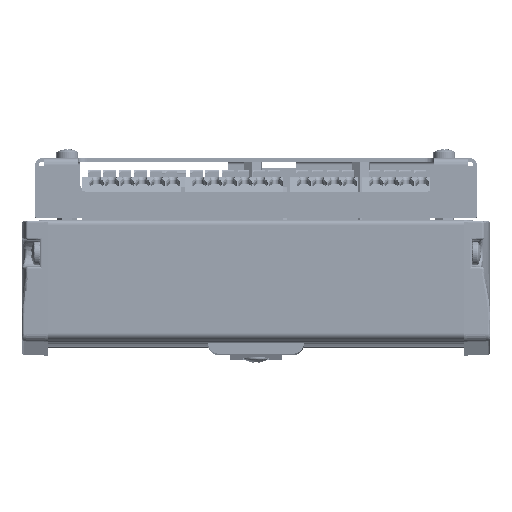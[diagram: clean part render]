
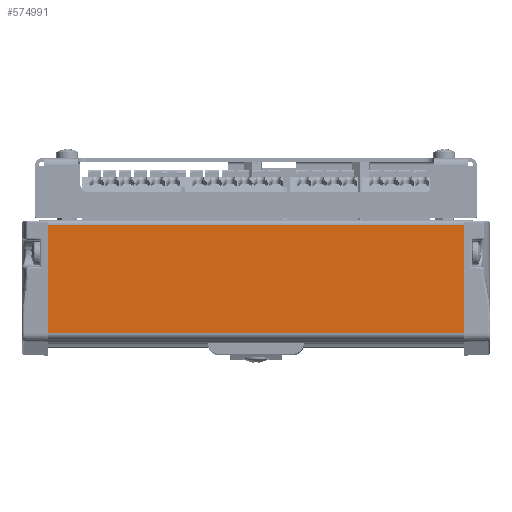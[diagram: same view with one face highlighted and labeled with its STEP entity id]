
A CAD part, front view. The second image highlights one B-rep face of the part: STEP entity #574991.
In plain terms, the highlighted planar face has unit normal (0, -1, 0).
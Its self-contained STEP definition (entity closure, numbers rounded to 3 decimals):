
#44242 = DIRECTION ( 'NONE',  ( 0., 0., -1. ) ) ;
#51611 = EDGE_CURVE ( 'NONE', #251498, #208137, #583958, .T. ) ;
#90198 = CARTESIAN_POINT ( 'NONE',  ( -11.031, -52.5, -126.25 ) ) ;
#105812 = LINE ( 'NONE', #488262, #290980 ) ;
#124954 = CARTESIAN_POINT ( 'NONE',  ( -11.031, -52.5, -31.25 ) ) ;
#164613 = CARTESIAN_POINT ( 'NONE',  ( 13.675, -52.5, -126.25 ) ) ;
#179936 = ORIENTED_EDGE ( 'NONE', *, *, #51611, .T. ) ;
#180347 = ORIENTED_EDGE ( 'NONE', *, *, #441403, .T. ) ;
#208137 = VERTEX_POINT ( 'NONE', #558364 ) ;
#212771 = CARTESIAN_POINT ( 'NONE',  ( 13.675, -52.5, -126.25 ) ) ;
#215731 = FACE_OUTER_BOUND ( 'NONE', #601110, .T. ) ;
#251498 = VERTEX_POINT ( 'NONE', #293589 ) ;
#290980 = VECTOR ( 'NONE', #292647, 1000. ) ;
#292647 = DIRECTION ( 'NONE',  ( -1., 0., 0. ) ) ;
#293589 = CARTESIAN_POINT ( 'NONE',  ( -11.031, -52.5, -126.25 ) ) ;
#339943 = VECTOR ( 'NONE', #44242, 1000. ) ;
#341281 = VERTEX_POINT ( 'NONE', #124954 ) ;
#353945 = VECTOR ( 'NONE', #392866, 1000. ) ;
#356738 = DIRECTION ( 'NONE',  ( 0., 0., -1. ) ) ;
#371057 = VECTOR ( 'NONE', #437239, 1000. ) ;
#374550 = EDGE_CURVE ( 'NONE', #580088, #341281, #105812, .T. ) ;
#390577 = PLANE ( 'NONE',  #421822 ) ;
#392866 = DIRECTION ( 'NONE',  ( 0., 0., 1. ) ) ;
#399646 = DIRECTION ( 'NONE',  ( 0., -1., 0. ) ) ;
#413315 = EDGE_CURVE ( 'NONE', #208137, #580088, #438788, .T. ) ;
#421822 = AXIS2_PLACEMENT_3D ( 'NONE', #212771, #399646, #356738 ) ;
#437239 = DIRECTION ( 'NONE',  ( 1., 0., 0. ) ) ;
#438788 = LINE ( 'NONE', #484681, #353945 ) ;
#441403 = EDGE_CURVE ( 'NONE', #341281, #251498, #500465, .T. ) ;
#454867 = ORIENTED_EDGE ( 'NONE', *, *, #374550, .T. ) ;
#484681 = CARTESIAN_POINT ( 'NONE',  ( 13.675, -52.5, -126.25 ) ) ;
#488262 = CARTESIAN_POINT ( 'NONE',  ( 13.675, -52.5, -31.25 ) ) ;
#491623 = CARTESIAN_POINT ( 'NONE',  ( 13.675, -52.5, -31.25 ) ) ;
#500465 = LINE ( 'NONE', #90198, #339943 ) ;
#558364 = CARTESIAN_POINT ( 'NONE',  ( 13.675, -52.5, -126.25 ) ) ;
#574991 = ADVANCED_FACE ( 'NONE', ( #215731 ), #390577, .T. ) ;
#580088 = VERTEX_POINT ( 'NONE', #491623 ) ;
#583958 = LINE ( 'NONE', #164613, #371057 ) ;
#598949 = ORIENTED_EDGE ( 'NONE', *, *, #413315, .T. ) ;
#601110 = EDGE_LOOP ( 'NONE', ( #179936, #598949, #454867, #180347 ) ) ;
